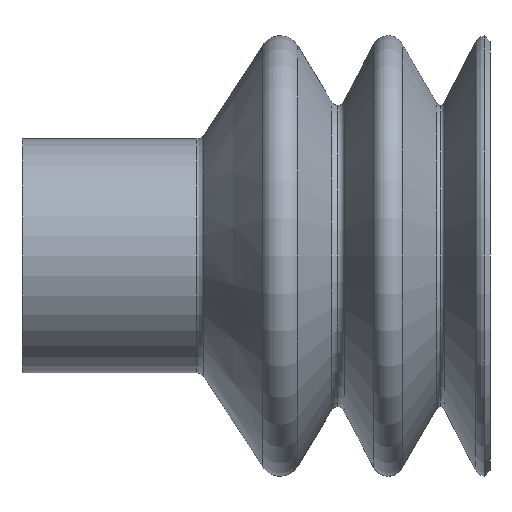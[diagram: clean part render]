
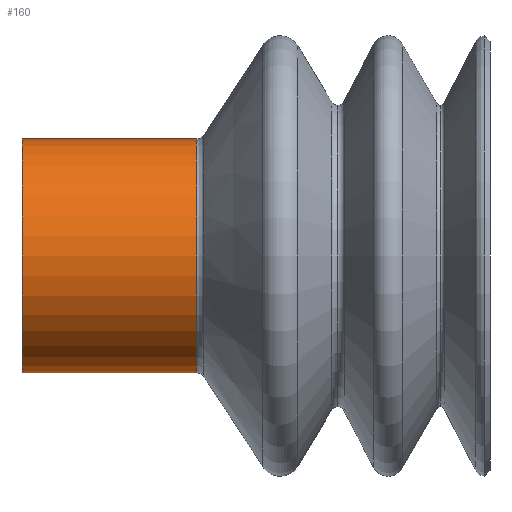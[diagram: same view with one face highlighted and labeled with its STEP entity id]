
A CAD part, left-side view. The second image highlights one B-rep face of the part: STEP entity #160.
In plain terms, the highlighted cylindrical face has radius 8.5 mm (diameter 17 mm), a partial arc.
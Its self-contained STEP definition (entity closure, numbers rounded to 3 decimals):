
#32 = ORIENTED_EDGE ( 'NONE', *, *, #167, .T. ) ;
#74 = CARTESIAN_POINT ( 'NONE',  ( 0., -12.7, 8.5 ) ) ;
#160 = ADVANCED_FACE ( 'NONE', ( #769 ), #478, .T. ) ;
#167 = EDGE_CURVE ( 'NONE', #1573, #961, #1725, .T. ) ;
#193 = CARTESIAN_POINT ( 'NONE',  ( 0., 0., 8.5 ) ) ;
#207 = AXIS2_PLACEMENT_3D ( 'NONE', #401, #974, #258 ) ;
#258 = DIRECTION ( 'NONE',  ( 0., 0., 1. ) ) ;
#261 = VECTOR ( 'NONE', #1259, 1000. ) ;
#267 = ORIENTED_EDGE ( 'NONE', *, *, #467, .T. ) ;
#282 = CIRCLE ( 'NONE', #502, 8.5 ) ;
#287 = DIRECTION ( 'NONE',  ( 0., 1., 0. ) ) ;
#357 = ORIENTED_EDGE ( 'NONE', *, *, #915, .F. ) ;
#385 = CARTESIAN_POINT ( 'NONE',  ( 0., 0., -8.5 ) ) ;
#401 = CARTESIAN_POINT ( 'NONE',  ( 0., 0., 0. ) ) ;
#424 = DIRECTION ( 'NONE',  ( 0., 0., 1. ) ) ;
#467 = EDGE_CURVE ( 'NONE', #1635, #1573, #1559, .T. ) ;
#478 = CYLINDRICAL_SURFACE ( 'NONE', #207, 8.5 ) ;
#502 = AXIS2_PLACEMENT_3D ( 'NONE', #880, #1207, #1315 ) ;
#610 = VERTEX_POINT ( 'NONE', #1164 ) ;
#769 = FACE_OUTER_BOUND ( 'NONE', #898, .T. ) ;
#880 = CARTESIAN_POINT ( 'NONE',  ( 0., 0., 0. ) ) ;
#898 = EDGE_LOOP ( 'NONE', ( #357, #267, #32, #1056 ) ) ;
#915 = EDGE_CURVE ( 'NONE', #1635, #610, #1420, .T. ) ;
#961 = VERTEX_POINT ( 'NONE', #193 ) ;
#974 = DIRECTION ( 'NONE',  ( 0., 1., 0. ) ) ;
#1056 = ORIENTED_EDGE ( 'NONE', *, *, #1526, .F. ) ;
#1164 = CARTESIAN_POINT ( 'NONE',  ( 0., 0., -8.5 ) ) ;
#1207 = DIRECTION ( 'NONE',  ( 0., 1., 0. ) ) ;
#1220 = CARTESIAN_POINT ( 'NONE',  ( 0., -12.7, -8.5 ) ) ;
#1259 = DIRECTION ( 'NONE',  ( 0., 1., 0. ) ) ;
#1315 = DIRECTION ( 'NONE',  ( 0., 0., 1. ) ) ;
#1338 = VECTOR ( 'NONE', #1670, 1000. ) ;
#1400 = CARTESIAN_POINT ( 'NONE',  ( 0., 0., 8.5 ) ) ;
#1420 = LINE ( 'NONE', #385, #261 ) ;
#1526 = EDGE_CURVE ( 'NONE', #610, #961, #282, .T. ) ;
#1529 = AXIS2_PLACEMENT_3D ( 'NONE', #1681, #287, #424 ) ;
#1559 = CIRCLE ( 'NONE', #1529, 8.5 ) ;
#1573 = VERTEX_POINT ( 'NONE', #74 ) ;
#1635 = VERTEX_POINT ( 'NONE', #1220 ) ;
#1670 = DIRECTION ( 'NONE',  ( 0., 1., 0. ) ) ;
#1681 = CARTESIAN_POINT ( 'NONE',  ( 0., -12.7, 0. ) ) ;
#1725 = LINE ( 'NONE', #1400, #1338 ) ;
